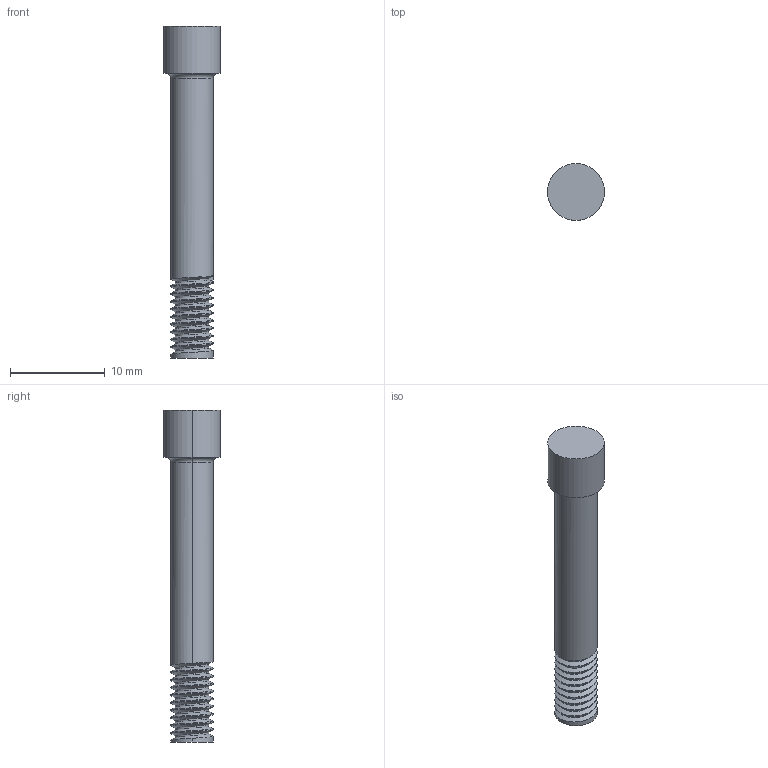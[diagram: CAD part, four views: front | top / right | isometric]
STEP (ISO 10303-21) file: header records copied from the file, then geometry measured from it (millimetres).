
FILE_DESCRIPTION (( 'STEP AP214' ), '1' );
FILE_NAME ('Bolzen_1.STEP', '2026-02-05T09:55:43', ( '' ), ( '' ), 'SwSTEP 2.0', 'SolidWorks 2025', '' );
FILE_SCHEMA (( 'AUTOMOTIVE_DESIGN' ));
Length unit declared in the file: metre
Products named in the file (1): Bolzen_1
Bounding box: 6 x 6 x 35 mm (x, y, z)
Volume: 582.9 mm3; surface area: 618.1 mm2
Topology: 1 solids, 1 shells, 34 faces, 86 edges, 55 vertices
Faces by surface type: cylinder 24, plane 5, bspline 3, torus 2
Entity records: 2494 total; most frequent: CARTESIAN_POINT 1779, ORIENTED_EDGE 172, DIRECTION 120, EDGE_CURVE 86, VERTEX_POINT 55, AXIS2_PLACEMENT_3D 44, EDGE_LOOP 35, FACE_OUTER_BOUND 34
